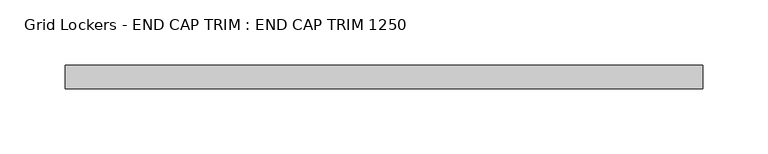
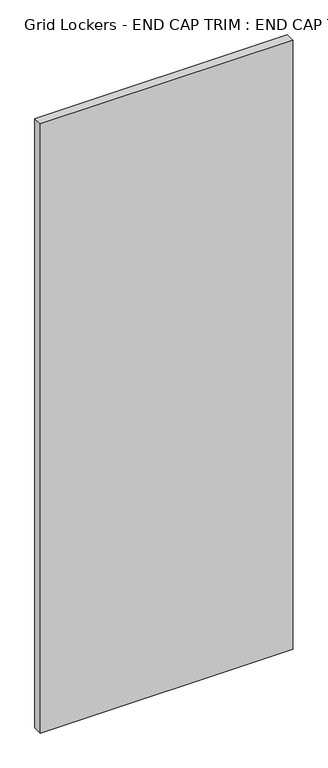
"""IFC4 building model written with IfcOpenShell, lengths in millimetres: furniture geometry, Grid Lockers - END CAP TRIM : END CAP TRIM 1250."""

from ifc_helpers import new_model, si_unit, origin, origin_with_axes, place, context, project, spatial, polyline, outline, extrude, source, transform, mapped, element, save


def grid_lockers_end_cap_trim_end_cap_trim_1250_7c0949b9(model_context):
    return source(origin(), model_context, "Body", "SweptSolid", [
        extrude(outline(polyline([(490.0, -18.0), (0.0, -18.0), (0.0, 0.0), (490.0, 0.0), (490.0, -18.0)])), origin_with_axes(), (0.0, 0.0, 1.0), 1250.0),
    ])


if __name__ == "__main__":
    model = new_model("IFC4")
    model_context = context("Model", 3, world=origin())
    ifc_project = project(units=[si_unit("LENGTHUNIT", "METRE", prefix="MILLI")], contexts=[model_context])
    site = spatial("IfcSite", under=ifc_project)
    building = spatial("IfcBuilding", under=site)
    placement = place(None, origin())
    grid_lockers_end_cap_trim_end_cap_trim_1250_shape = grid_lockers_end_cap_trim_end_cap_trim_1250_7c0949b9(model_context)
    element("IfcFurniture", 1, ObjectType="Grid Lockers - END CAP TRIM : END CAP TRIM 1250", at=placement, inside=building, context=model_context, shape_type="MappedRepresentation", body=[
        mapped(grid_lockers_end_cap_trim_end_cap_trim_1250_shape, transform((0.0, 0.0, 0.0), x_axis=(1.0, 0.0, 0.0), y_axis=(0.0, 1.0, 0.0), z_axis=(0.0, 0.0, 1.0))),
    ])
    save(model, "model.ifc")
